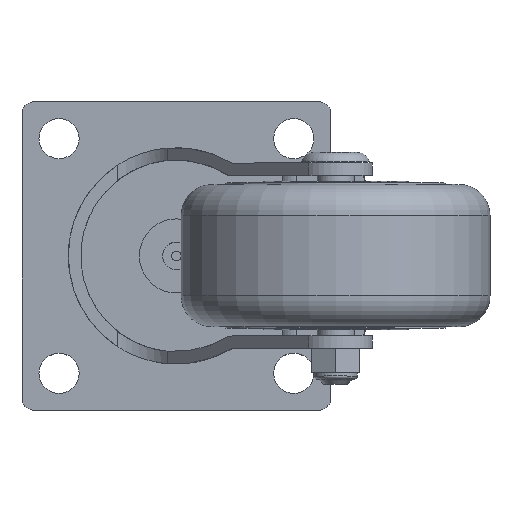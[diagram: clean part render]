
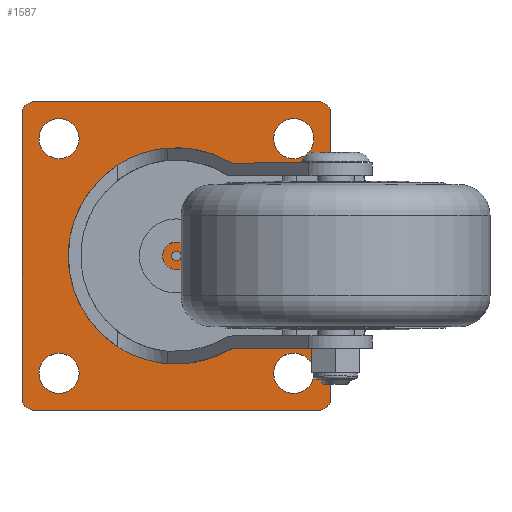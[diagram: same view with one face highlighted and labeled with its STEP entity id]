
A CAD part, top view. The second image highlights one B-rep face of the part: STEP entity #1587.
In plain terms, the highlighted planar face has unit normal (0, 0, 1).
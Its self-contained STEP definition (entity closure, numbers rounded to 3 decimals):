
#104=LINE($,#2581,#177);
#107=LINE($,#2589,#180);
#110=LINE($,#2597,#183);
#113=LINE($,#2604,#186);
#177=VECTOR($,#2034,46.);
#180=VECTOR($,#2043,46.);
#183=VECTOR($,#2052,46.);
#186=VECTOR($,#2061,46.);
#284=FACE_BOUND($,#526,.T.);
#285=FACE_BOUND($,#527,.T.);
#286=FACE_BOUND($,#528,.T.);
#287=FACE_BOUND($,#529,.T.);
#288=FACE_BOUND($,#530,.T.);
#289=FACE_BOUND($,#531,.T.);
#526=EDGE_LOOP($,(#1194));
#527=EDGE_LOOP($,(#1195));
#528=EDGE_LOOP($,(#1196));
#529=EDGE_LOOP($,(#1197));
#530=EDGE_LOOP($,(#1198));
#531=EDGE_LOOP($,(#1199,#1200,#1201,#1202,#1203,#1204,#1205,#1206));
#663=CIRCLE($,#1698,0.774);
#682=CIRCLE($,#1729,3.25);
#683=CIRCLE($,#1731,3.25);
#684=CIRCLE($,#1733,3.25);
#685=CIRCLE($,#1735,3.25);
#686=CIRCLE($,#1737,2.);
#687=CIRCLE($,#1740,2.);
#688=CIRCLE($,#1743,2.);
#689=CIRCLE($,#1746,2.);
#768=VERTEX_POINT($,#2504);
#791=VERTEX_POINT($,#2562);
#792=VERTEX_POINT($,#2565);
#793=VERTEX_POINT($,#2568);
#794=VERTEX_POINT($,#2571);
#795=VERTEX_POINT($,#2574);
#796=VERTEX_POINT($,#2576);
#797=VERTEX_POINT($,#2580);
#798=VERTEX_POINT($,#2584);
#799=VERTEX_POINT($,#2588);
#800=VERTEX_POINT($,#2592);
#801=VERTEX_POINT($,#2596);
#802=VERTEX_POINT($,#2600);
#922=EDGE_CURVE($,#768,#768,#663,.T.);
#945=EDGE_CURVE($,#791,#791,#682,.T.);
#946=EDGE_CURVE($,#792,#792,#683,.T.);
#947=EDGE_CURVE($,#793,#793,#684,.T.);
#948=EDGE_CURVE($,#794,#794,#685,.T.);
#950=EDGE_CURVE($,#796,#795,#686,.T.);
#952=EDGE_CURVE($,#797,#796,#104,.T.);
#954=EDGE_CURVE($,#798,#797,#687,.T.);
#956=EDGE_CURVE($,#799,#798,#107,.T.);
#958=EDGE_CURVE($,#800,#799,#688,.T.);
#960=EDGE_CURVE($,#801,#800,#110,.T.);
#962=EDGE_CURVE($,#802,#801,#689,.T.);
#964=EDGE_CURVE($,#795,#802,#113,.T.);
#1194=ORIENTED_EDGE($,*,*,#922,.T.);
#1195=ORIENTED_EDGE($,*,*,#945,.T.);
#1196=ORIENTED_EDGE($,*,*,#946,.T.);
#1197=ORIENTED_EDGE($,*,*,#947,.T.);
#1198=ORIENTED_EDGE($,*,*,#948,.T.);
#1199=ORIENTED_EDGE($,*,*,#964,.T.);
#1200=ORIENTED_EDGE($,*,*,#962,.T.);
#1201=ORIENTED_EDGE($,*,*,#960,.T.);
#1202=ORIENTED_EDGE($,*,*,#958,.T.);
#1203=ORIENTED_EDGE($,*,*,#956,.T.);
#1204=ORIENTED_EDGE($,*,*,#954,.T.);
#1205=ORIENTED_EDGE($,*,*,#952,.T.);
#1206=ORIENTED_EDGE($,*,*,#950,.T.);
#1525=PLANE($,#1748);
#1587=ADVANCED_FACE($,(#284,#285,#286,#287,#288,#289),#1525,.T.);
#1698=AXIS2_PLACEMENT_3D($,#2505,#1946,#1947);
#1729=AXIS2_PLACEMENT_3D($,#2563,#2012,#2013);
#1731=AXIS2_PLACEMENT_3D($,#2566,#2016,#2017);
#1733=AXIS2_PLACEMENT_3D($,#2569,#2020,#2021);
#1735=AXIS2_PLACEMENT_3D($,#2572,#2024,#2025);
#1737=AXIS2_PLACEMENT_3D($,#2577,#2029,#2030);
#1740=AXIS2_PLACEMENT_3D($,#2585,#2038,#2039);
#1743=AXIS2_PLACEMENT_3D($,#2593,#2047,#2048);
#1746=AXIS2_PLACEMENT_3D($,#2601,#2056,#2057);
#1748=AXIS2_PLACEMENT_3D($,#2605,#2062,#2063);
#1946=DIRECTION('center_axis',(0.,0.,-1.));
#1947=DIRECTION('ref_axis',(-1.,0.,0.));
#2012=DIRECTION('center_axis',(0.,0.,-1.));
#2013=DIRECTION('ref_axis',(-1.,0.,0.));
#2016=DIRECTION('center_axis',(0.,0.,-1.));
#2017=DIRECTION('ref_axis',(-1.,0.,0.));
#2020=DIRECTION('center_axis',(0.,0.,-1.));
#2021=DIRECTION('ref_axis',(-1.,0.,0.));
#2024=DIRECTION('center_axis',(0.,0.,-1.));
#2025=DIRECTION('ref_axis',(-1.,0.,0.));
#2029=DIRECTION('center_axis',(0.,0.,1.));
#2030=DIRECTION('ref_axis',(-1.,0.,0.));
#2034=DIRECTION($,(0.,1.,0.));
#2038=DIRECTION('center_axis',(0.,0.,1.));
#2039=DIRECTION('ref_axis',(0.,1.,0.));
#2043=DIRECTION($,(1.,0.,0.));
#2047=DIRECTION('center_axis',(0.,0.,1.));
#2048=DIRECTION('ref_axis',(1.,0.,0.));
#2052=DIRECTION($,(0.,-1.,0.));
#2056=DIRECTION('center_axis',(0.,0.,1.));
#2057=DIRECTION('ref_axis',(0.,-1.,0.));
#2061=DIRECTION($,(-1.,0.,0.));
#2062=DIRECTION('center_axis',(0.,0.,1.));
#2063=DIRECTION('ref_axis',(1.,0.,0.));
#2504=CARTESIAN_POINT('',(26.,25.395,2.));
#2505=CARTESIAN_POINT('Origin',(25.226,25.395,2.));
#2562=CARTESIAN_POINT('',(47.476,44.395,2.));
#2563=CARTESIAN_POINT('Origin',(44.226,44.395,2.));
#2565=CARTESIAN_POINT('',(47.476,6.395,2.));
#2566=CARTESIAN_POINT('Origin',(44.226,6.395,2.));
#2568=CARTESIAN_POINT('',(9.476,6.395,2.));
#2569=CARTESIAN_POINT('Origin',(6.226,6.395,2.));
#2571=CARTESIAN_POINT('',(9.476,44.395,2.));
#2572=CARTESIAN_POINT('Origin',(6.226,44.395,2.));
#2574=CARTESIAN_POINT('',(48.226,50.395,2.));
#2576=CARTESIAN_POINT('',(50.226,48.395,2.));
#2577=CARTESIAN_POINT('Origin',(48.226,48.395,2.));
#2580=CARTESIAN_POINT('',(50.226,2.395,2.));
#2581=CARTESIAN_POINT($,(50.226,48.395,2.));
#2584=CARTESIAN_POINT('',(48.226,0.395,2.));
#2585=CARTESIAN_POINT('Origin',(48.226,2.395,2.));
#2588=CARTESIAN_POINT('',(2.226,0.395,2.));
#2589=CARTESIAN_POINT($,(48.226,0.395,2.));
#2592=CARTESIAN_POINT('',(0.226,2.395,2.));
#2593=CARTESIAN_POINT('Origin',(2.226,2.395,2.));
#2596=CARTESIAN_POINT('',(0.226,48.395,2.));
#2597=CARTESIAN_POINT($,(0.226,2.395,2.));
#2600=CARTESIAN_POINT('',(2.226,50.395,2.));
#2601=CARTESIAN_POINT('Origin',(2.226,48.395,2.));
#2604=CARTESIAN_POINT($,(2.226,50.395,2.));
#2605=CARTESIAN_POINT('Origin',(25.226,25.395,2.));
